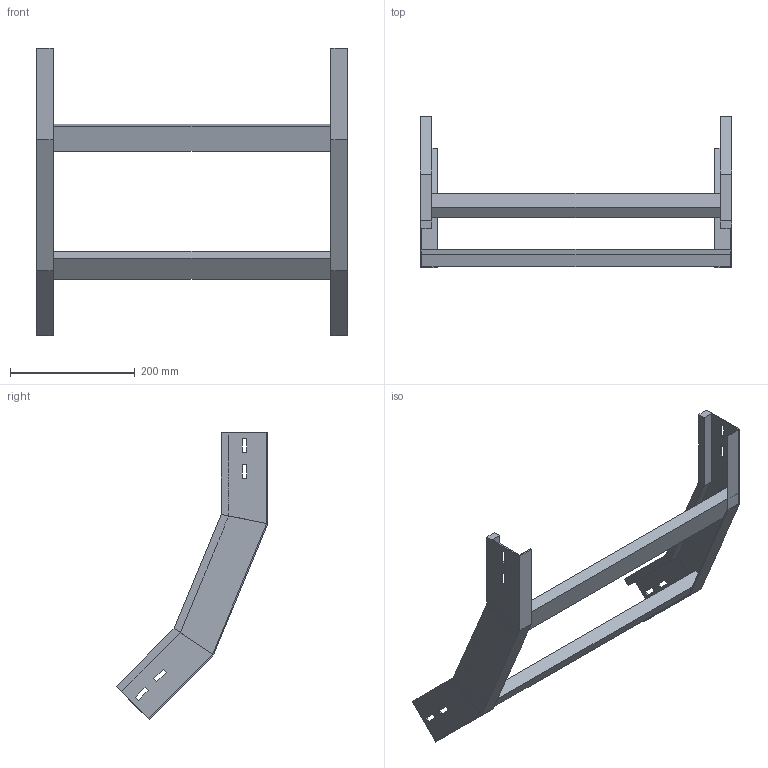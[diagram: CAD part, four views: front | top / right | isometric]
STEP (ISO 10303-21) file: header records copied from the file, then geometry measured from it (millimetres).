
FILE_DESCRIPTION (( 'STEP AP214' ), '1' );
FILE_NAME ('A2X31B5C500XX.step', '2025-03-20T10:09:39', ( '' ), ( '' ), 'SwSTEP 2.0', 'SolidWorks 2023', '' );
FILE_SCHEMA (( 'AUTOMOTIVE_DESIGN' ));
Length unit declared in the file: millimetre
Products named in the file (3): TRAVERSINO_500; LONGH.SALITA_45°_H75_R500; A2X31B5C500XX
Assembly tree (4 placements, depth 2):
  A2X31B5C500XX
    LONGH.SALITA_45°_H75_R500  x2
    TRAVERSINO_500  x2
Bounding box: 500 x 244.02 x 461.09 mm (x, y, z)
Volume: 1179721.5 mm3; surface area: 356621.9 mm2
Topology: 4 solids, 4 shells, 96 faces, 232 edges, 144 vertices
Faces by surface type: plane 96
Entity records: 1472 total; most frequent: CARTESIAN_POINT 243, ORIENTED_EDGE 232, DIRECTION 226, VECTOR 116, LINE 116, EDGE_CURVE 116, VERTEX_POINT 72, EDGE_LOOP 56
